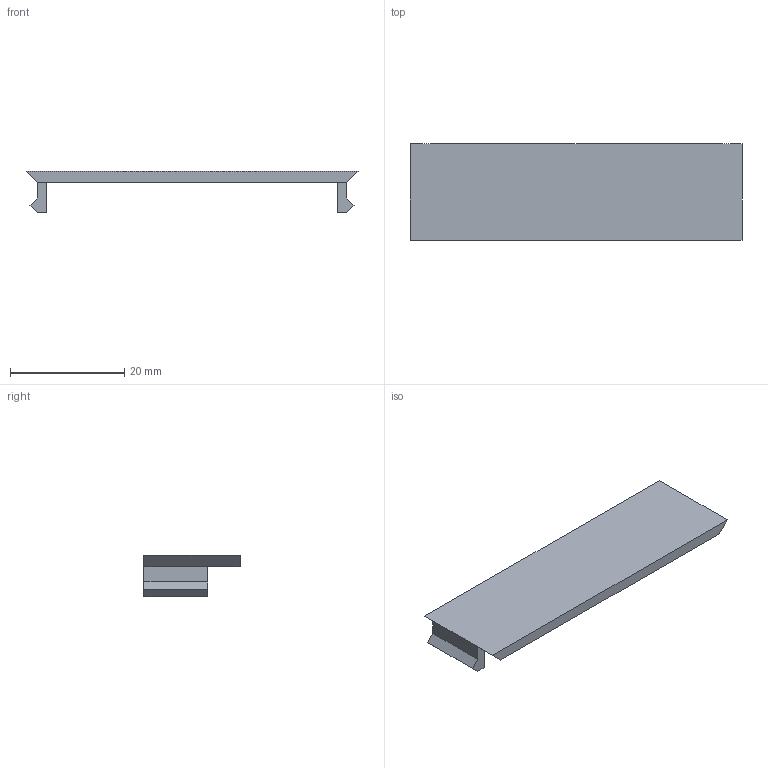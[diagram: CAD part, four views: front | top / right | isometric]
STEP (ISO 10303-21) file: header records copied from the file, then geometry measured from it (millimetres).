
FILE_DESCRIPTION(('STEP AP242 Edition 2','STEP AP242 Edition 2''CAx-IF Rec.Pracs.---Representation and Presentation of Product Manufacturing Information (PMI)---4.0---2014-10-13','STEP AP242 Edition 2''CAx-IF Rec.Pracs.---Representation and Presentation of Product Manufacturing Information (PMI)---4.0---2014-10-13''CAx-IF Rec.Pracs.---3D Tessellated Geometry---0.4---2014-09-14','STEP AP242 Edition 2''CAx-IF Rec.Pracs.---Representation and Presentation of Product Manufacturing Information (PMI)---4.0---2014-10-13''CAx-IF Rec.Pracs.---3D Tessellated Geometry---0.4---2014-09-14''2;1','STEP AP242 Edition 2''CAx-IF Rec.Pracs.---Representation and Presentation of Product Manufacturing Information (PMI)---4.0---2014-10-13''CAx-IF Rec.Pracs.---3D Tessellated Geometry---0.4---2014-09-14''2;1''CAx-IF Rec.Pracs.---User Defined Attributes---1.5---2016-08-15'),'2;1');
FILE_NAME('/vol/tmp/translate-371612670479758043/Case - GPIO Cover.step','2026-03-18T15:31:30',(''),(''),'ST-DEVELOPER v20','ONSHAPE BY PTC INC, 1.212',' ');
FILE_SCHEMA(('AP242_MANAGED_MODEL_BASED_3D_ENGINEERING_MIM_LF { 1 0 10303 442 3 1 4 }'));
Length unit declared in the file: metre
Products named in the file (1): GPIO Cover
Bounding box: 58.2 x 16.85 x 7.3 mm (x, y, z)
Volume: 2120.7 mm3; surface area: 2515.1 mm2
Topology: 1 solids, 1 shells, 18 faces, 46 edges, 30 vertices
Faces by surface type: plane 18
Entity records: 556 total; most frequent: CARTESIAN_POINT 95, ORIENTED_EDGE 92, DIRECTION 84, EDGE_CURVE 46, LINE 46, VECTOR 46, VERTEX_POINT 30, AXIS2_PLACEMENT_3D 19
